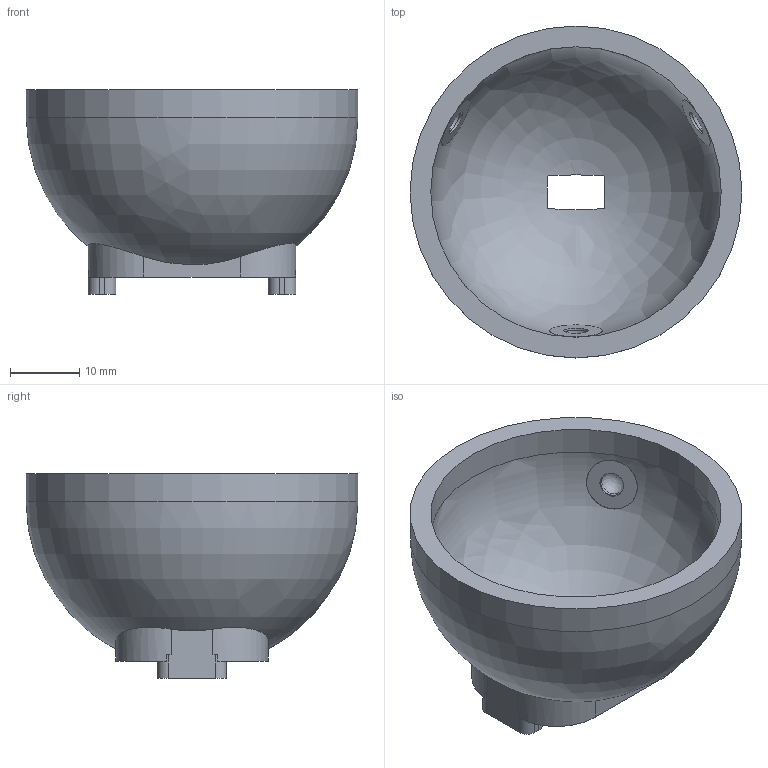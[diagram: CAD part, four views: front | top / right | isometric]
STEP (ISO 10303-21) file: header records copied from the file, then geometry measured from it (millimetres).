
FILE_DESCRIPTION(('Open CASCADE Model'),'2;1');
FILE_NAME('Open CASCADE Shape Model','2026-05-31T19:43:17',('Author'),( 'Open CASCADE'),'Open CASCADE STEP processor 7.6','Open CASCADE 7.6' ,'Unknown');
FILE_SCHEMA(('AP242_MANAGED_MODEL_BASED_3D_ENGINEERING_MIM_LF. {1 0 10303 442 1 1 4 }'));
Length unit declared in the file: millimetre
Products named in the file (1): Open CASCADE STEP translator 7.6 5
Bounding box: 48 x 48 x 29.6 mm (x, y, z)
Volume: 11764.9 mm3; surface area: 8506.2 mm2
Topology: 1 solids, 1 shells, 80 faces, 209 edges, 137 vertices
Faces by surface type: plane 35, cylinder 31, revolution 8, bspline 4, cone 2
Full cylindrical faces by diameter (mm): 2.05 x2, 3.57 x3, 3.572 x3, 7.57 x3, 42 x1, 48 x1
Entity records: 8957 total; most frequent: CARTESIAN_POINT 4839, DIRECTION 765, ORIENTED_EDGE 408, PCURVE 408, DEFINITIONAL_REPRESENTATION 408, LINE 403, VECTOR 403, EDGE_CURVE 204
